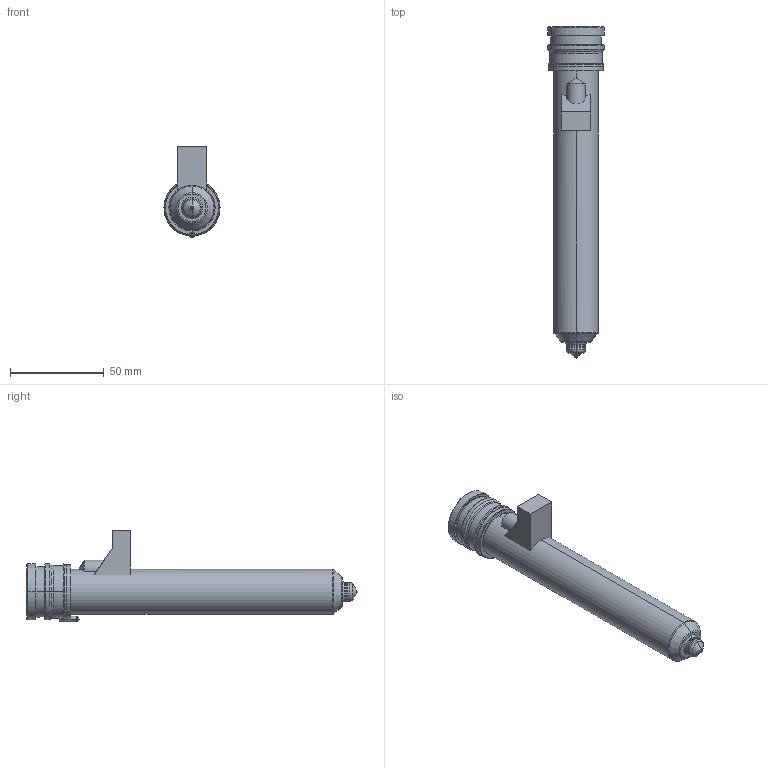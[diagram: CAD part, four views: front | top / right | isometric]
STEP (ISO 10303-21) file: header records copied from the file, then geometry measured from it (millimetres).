
FILE_DESCRIPTION((''),'2;1');
FILE_NAME('MPN-10-29-TX10-156-M','2026-02-05T12:51:40',('UPTIO'),('Thermoplay S.p.A.'),'CREO PARAMETRIC BY PTC INC, 2023494','CREO PARAMETRIC BY PTC INC, 2023494','');
FILE_SCHEMA(('CONFIG_CONTROL_DESIGN','SHAPE_APPEARANCE_LAYERS_GROUPS'));
Length unit declared in the file: millimetre
Products named in the file (1): MPN-10-29-TX10-156-M
Bounding box: 30 x 177.5 x 49 mm (x, y, z)
Volume: 55130.7 mm3; surface area: 56578.5 mm2
Topology: 3 solids, 5 shells, 541 faces, 1383 edges, 844 vertices
Faces by surface type: cylinder 177, plane 146, bspline 73, torus 67, cone 64, sphere 10, extrusion 4
Entity records: 29297 total; most frequent: CARTESIAN_POINT 13531, ORIENTED_EDGE 2748, DIRECTION 2568, EDGE_CURVE 1374, AXIS2_PLACEMENT_3D 1017, VERTEX_POINT 844, EDGE_LOOP 570, CIRCLE 552
